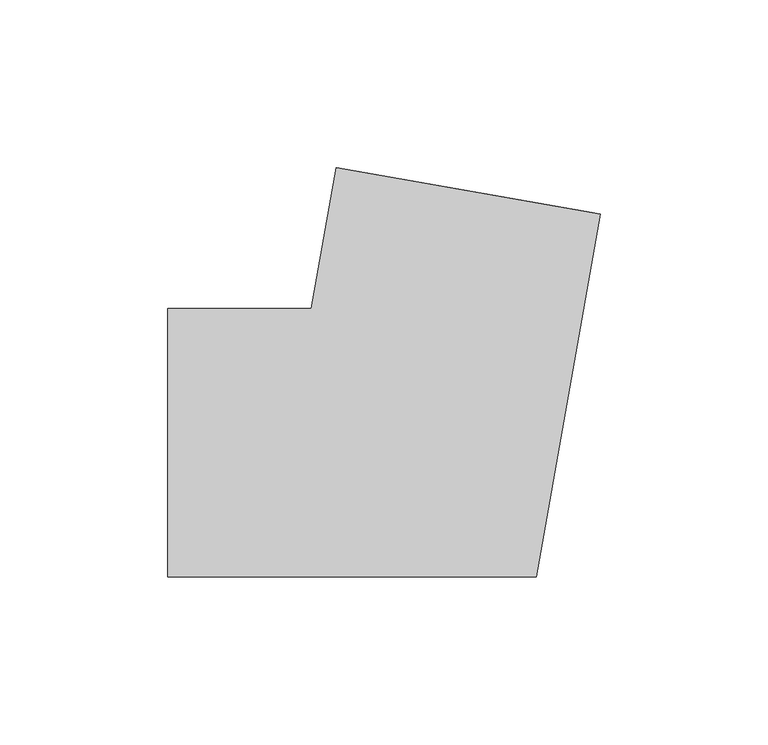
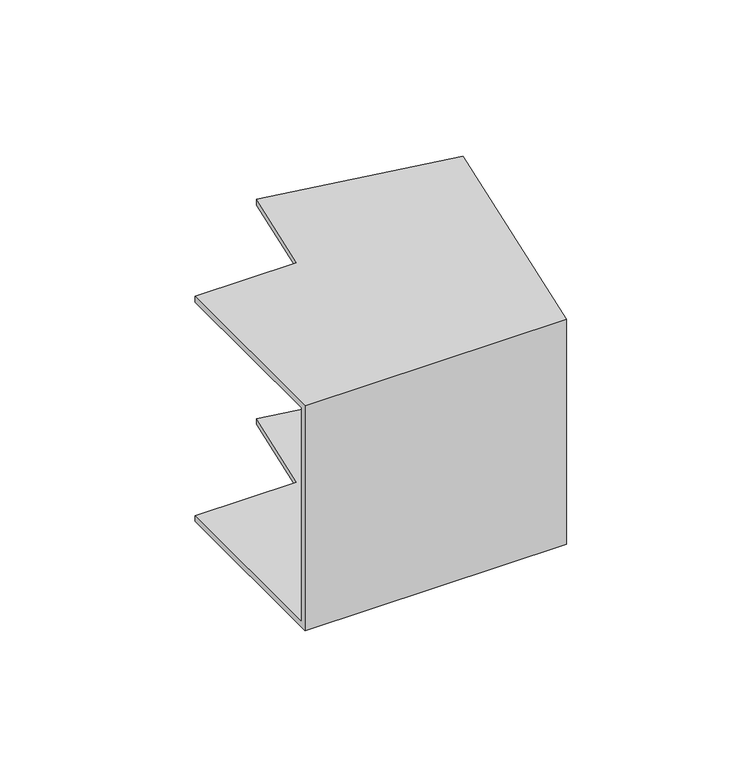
"""IFC4 building model written with IfcOpenShell, lengths in millimetres: cable carrier fitting geometry, КНС_УголВнутренний_ILC_DKC : Угол внутренний_DKC."""

from ifc_helpers import new_model, si_unit, origin, place, context, project, spatial, faceted_brep, source, transform, mapped, element, save


def cable_carrier_fitting_b63a8de4(model_context):
    return source(origin(), model_context, "Body", "Brep", [
        faceted_brep([(-76.3234687, -40.0, 50.0), (-76.3234687, 40.0, 50.0), (-76.3234687, 40.0, 47.5), (-76.3234687, -37.5, 47.5), (-76.3234687, -37.5, -47.5), (-76.3234687, 40.0, -47.5), (-76.3234687, 40.0, -50.0), (-76.3234687, -40.0, -50.0), (52.6457414, 68.2180166, 50.0), (52.6457414, 68.2180166, -50.0), (-26.1388789, 82.1098708, -50.0), (-26.1388789, 82.1098708, -47.5), (50.183722, 68.652137, -47.5), (50.183722, 68.652137, 47.5), (-26.1388789, 82.1098708, 47.5), (-26.1388789, 82.1098708, 50.0), (33.5639852, -40.0, 50.0), (-33.5639852, 40.0, 50.0), (-33.5639852, 40.0, 47.5), (31.4662362, -37.5, 47.5), (31.4662362, -37.5, -47.5), (-33.5639852, 40.0, -47.5), (-33.5639852, 40.0, -50.0), (33.5639852, -40.0, -50.0)], [[[0, 1, 2, 3, 4, 5, 6, 7]], [[8, 9, 10, 11, 12, 13, 14, 15]], [[1, 0, 16, 8, 15, 17]], [[2, 1, 17, 18]], [[3, 2, 18, 14, 13, 19]], [[4, 3, 19, 20]], [[5, 4, 20, 12, 11, 21]], [[6, 5, 21, 22]], [[7, 6, 22, 10, 9, 23]], [[0, 7, 23, 16]], [[18, 17, 15, 14]], [[20, 19, 13, 12]], [[22, 21, 11, 10]], [[16, 23, 9, 8]]]),
    ])


if __name__ == "__main__":
    model = new_model("IFC4")
    model_context = context("Model", 3, world=origin())
    ifc_project = project(units=[si_unit("LENGTHUNIT", "METRE", prefix="MILLI")], contexts=[model_context])
    site = spatial("IfcSite", under=ifc_project)
    building = spatial("IfcBuilding", under=site)
    placement = place(None, origin())
    cable_carrier_fitting_shape = cable_carrier_fitting_b63a8de4(model_context)
    element("IfcCableCarrierFitting", 1, ObjectType="КНС_УголВнутренний_ILC_DKC : Угол внутренний_DKC", at=placement, inside=building, context=model_context, shape_type="MappedRepresentation", body=[
        mapped(cable_carrier_fitting_shape, transform((0.0, 0.0, 0.0), x_axis=(1.0, 0.0, 0.0), y_axis=(0.0, 1.0, 0.0), z_axis=(0.0, 0.0, 1.0))),
    ])
    save(model, "model.ifc")
